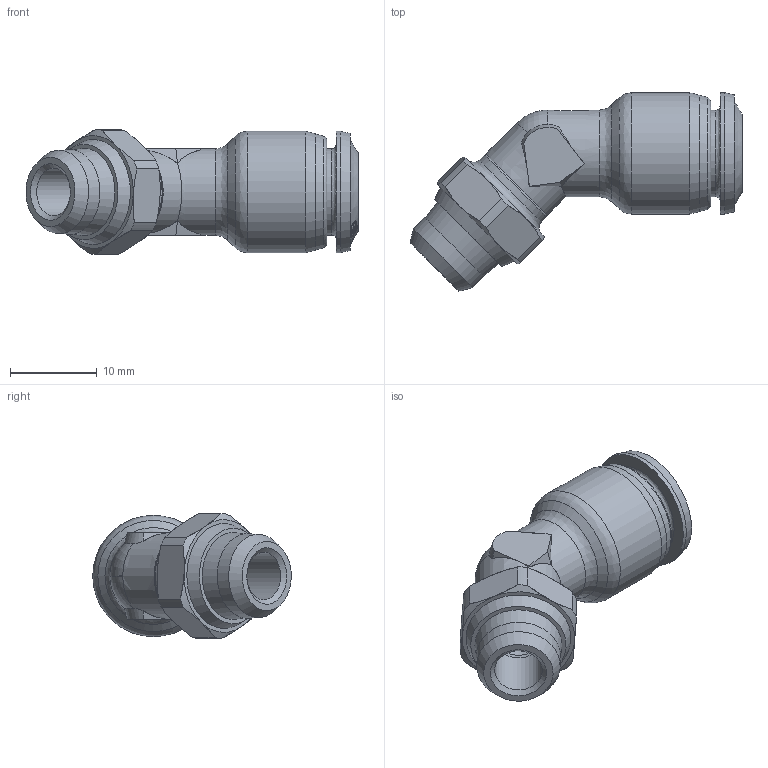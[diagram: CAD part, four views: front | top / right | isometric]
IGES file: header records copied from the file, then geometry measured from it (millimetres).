
Start section: SolidWorks IGES file using analytic representation for surfaces
Global section: file name: K:\Disegni Esecutivi\SERIE 55000\ASSIEMI_55000\55170\55170_igs\5517000008A.IGS; native system: SolidWorks 2012; preprocessor: SolidWorks 2012; author: cad05; date: 131015.141638; units: millimetre
Bounding box: 38.3 x 22.9 x 14.4 mm (x, y, z)
Surface area: 2433.4 mm2 (no closed solid volume)
Topology: 0 solids, 0 shells, 192 faces, 970 edges, 929 vertices
Faces by surface type: bspline 123, revolution 69
